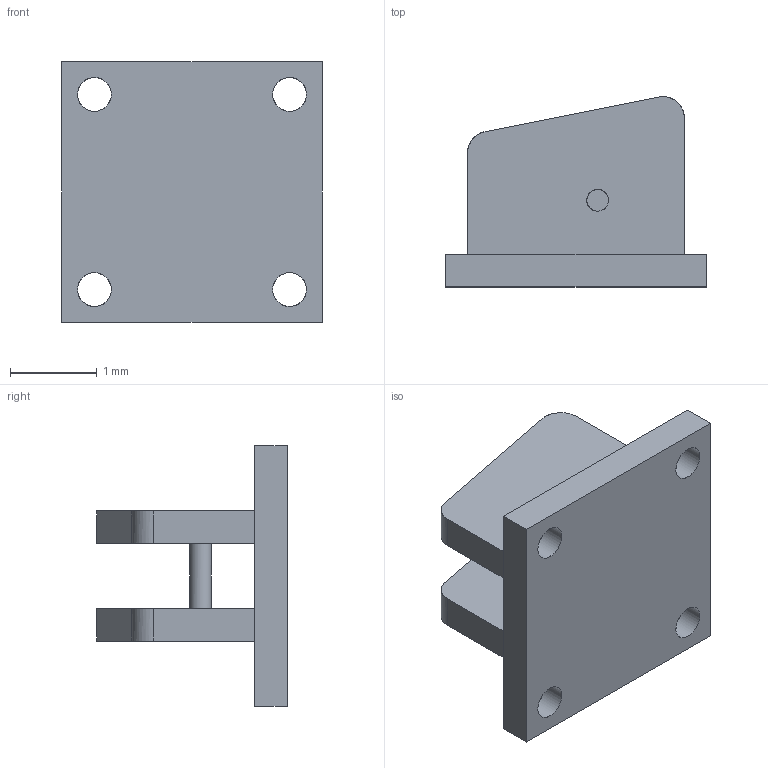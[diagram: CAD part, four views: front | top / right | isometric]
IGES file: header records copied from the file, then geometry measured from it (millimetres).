
Start section:  Autodesk DirectConnect version 7.0.27.0 ---- IGES version 5.3
Global section: file name: C:\Users\Nick\Desktop\LPCR-4000\3D\LPCR4000.igs; native system: Autodesk DirectConnect 7.0.27.0; preprocessor: 7.0.27.0; author: Nick; organization: Unknown; date: 20150706.145005; units: millimetre
Bounding box: 3 x 2.19 x 3 mm (x, y, z)
Surface area: 43.5 mm2 (no closed solid volume)
Topology: 0 solids, 0 shells, 29 faces, 200 edges, 198 vertices
Faces by surface type: bspline 29
